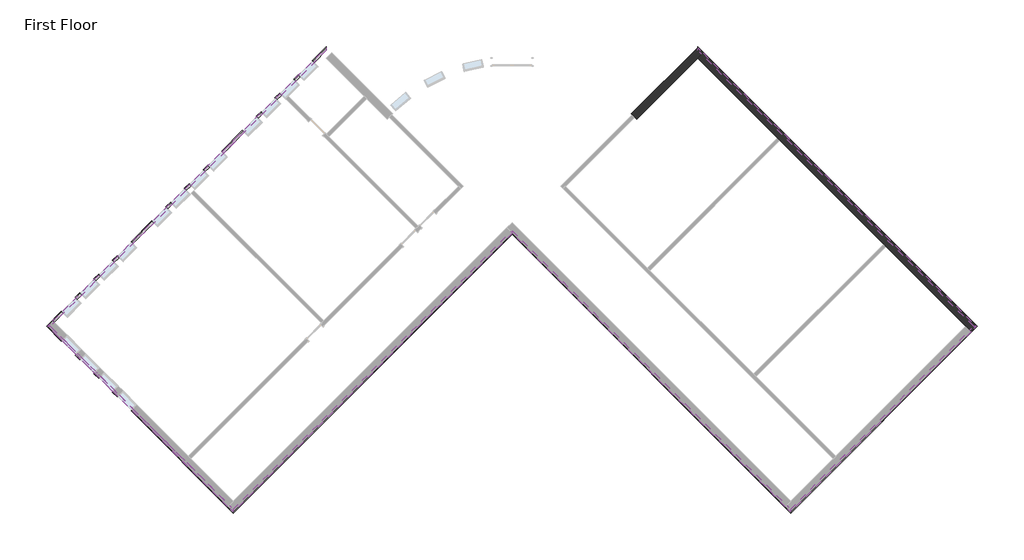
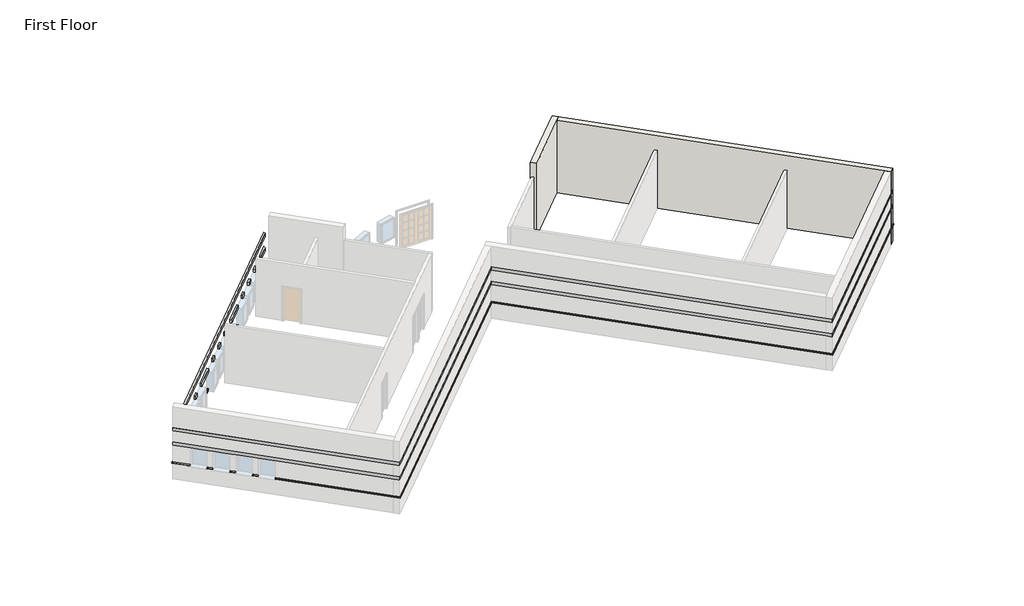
# One storey, part 2 of 2: 18 proxies, 2 walls.
"""IFC4 building model written with IfcOpenShell, lengths in millimetres."""

import ifcopenshell
import ifcopenshell.guid

model = None  # the IFC model being written
_history = None  # IfcOwnerHistory: only IFC2X3 demands one
_inside = {}  # id of a spatial element -> (the spatial element, [elements in it])
_under = {}  # id of a project, library or spatial element -> (it, [spatial elements below it])
_declared = {}  # id of a project -> (the project, [libraries it declares])
_typed = {}  # id of a type object -> (the type object, [elements of that type])
_made_of = {}  # id of a material, layer set ... -> (it, [elements and type objects made of it])


def new_model(schema):
    """Start an empty IFC model of exactly this schema.

    Asked for "IFC4X3", IfcOpenShell would pick the latest addendum, in which some entities
    have other attributes; the version numbers below select the first issue.
    IFC2X3 requires an IfcOwnerHistory on every rooted entity: one is made here for all.
    """
    global model, _history
    if schema == "IFC4X3":
        model = ifcopenshell.file(schema_version=(4, 3, 0, 0))
    else:
        model = ifcopenshell.file(schema=schema)
    _inside.clear()
    _under.clear()
    _declared.clear()
    _typed.clear()
    _made_of.clear()
    _history = None
    if model.schema == "IFC2X3":
        org = make("IfcOrganization", Name="unknown")
        user = make(
            "IfcPersonAndOrganization",
            ThePerson=make("IfcPerson", FamilyName="unknown"),
            TheOrganization=org,
        )
        app = make(
            "IfcApplication",
            ApplicationDeveloper=org,
            Version="unknown",
            ApplicationFullName="unknown",
            ApplicationIdentifier="unknown",
        )
        _history = make(
            "IfcOwnerHistory",
            OwningUser=user,
            OwningApplication=app,
            ChangeAction="ADDED",
            CreationDate=0,
        )
    return model


def make(cls, **values):
    """One entity of the class cls with the attributes given. An attribute that is None is left unset."""
    return model.create_entity(
        cls, **{name: value for name, value in values.items() if value is not None}
    )


def rooted(cls, **values):
    """An entity with a GlobalId (a new one), such as an element, a storey or a relation."""
    return make(cls, GlobalId=ifcopenshell.guid.new(), OwnerHistory=_history, **values)


def si_unit(unit_type, name, prefix=None):
    """IfcSIUnit, for example si_unit("LENGTHUNIT", "METRE", prefix="MILLI")."""
    return make("IfcSIUnit", UnitType=unit_type, Prefix=prefix, Name=name)


def assignment(units):
    """IfcUnitAssignment: the units of a project."""
    return None if units is None else make("IfcUnitAssignment", Units=units)


def point(xyz):
    """IfcCartesianPoint."""
    return None if xyz is None else make("IfcCartesianPoint", Coordinates=xyz)


def direction(xyz):
    """IfcDirection."""
    return None if xyz is None else make("IfcDirection", DirectionRatios=xyz)


def frame(location, z_axis=None, x_axis=None):
    """IfcAxis2Placement3D, a coordinate frame: its origin and axes. An axis left out is left unset."""
    return make(
        "IfcAxis2Placement3D",
        Location=point(location),
        Axis=direction(z_axis),
        RefDirection=direction(x_axis),
    )


def origin():
    """The frame at (0, 0, 0) with its axes left unset."""
    return frame((0.0, 0.0, 0.0))


def place(relative_to, where):
    """IfcLocalPlacement: puts the frame where relative to a parent placement (None: the world)."""
    return make(
        "IfcLocalPlacement", PlacementRelTo=relative_to, RelativePlacement=where
    )


def context(
    kind, dimensions, precision=None, world=None, true_north=None, identifier=None
):
    """IfcGeometricRepresentationContext, for example the 3D "Model" context."""
    return make(
        "IfcGeometricRepresentationContext",
        ContextIdentifier=identifier,
        ContextType=kind,
        CoordinateSpaceDimension=dimensions,
        Precision=precision,
        WorldCoordinateSystem=world,
        TrueNorth=true_north,
    )


def project(units=None, contexts=None):
    """IfcProject with its units and contexts."""
    return rooted(
        "IfcProject",
        Name="project",
        RepresentationContexts=contexts,
        UnitsInContext=assignment(units),
    )


def spatial(cls, under=None, at=None, **own):
    """A site, building, storey or space (cls), placed at a placement, below another one or the project."""
    s = rooted(cls, ObjectPlacement=at, **own)
    if under is not None:
        _under.setdefault(under.id(), (under, []))[1].append(s)
    return s


def polyline(points):
    """IfcPolyline through the points."""
    return make("IfcPolyline", Points=[point(p) for p in points])


def circle_curve(where, radius):
    """IfcCircle in the frame where."""
    return make("IfcCircle", Position=where, Radius=radius)


def faces_of(points, faces, orient=None, outer=None):
    """IfcFace entities. A face is a list of loops; a loop is a list of indices into points, from 0.

    orient and outer hold one flag for each loop. By default every Orientation is true, the
    first loop of a face is its IfcFaceOuterBound and the others are IfcFaceBound.
    """
    made = []
    for i, loops in enumerate(faces):
        bounds = []
        for j, loop in enumerate(loops):
            is_outer = j == 0 if outer is None else outer[i][j]
            bounds.append(
                make(
                    "IfcFaceOuterBound" if is_outer else "IfcFaceBound",
                    Bound=make("IfcPolyLoop", Polygon=[points[k] for k in loop]),
                    Orientation=True if orient is None else orient[i][j],
                )
            )
        made.append(make("IfcFace", Bounds=bounds))
    return made


def faceted_brep(points, faces, orient=None, outer=None, voids=None):
    """IfcFacetedBrep: a solid bounded by flat faces; with voids (closed shells), ...WithVoids."""
    shared = [point(p) for p in points]
    hull = make("IfcClosedShell", CfsFaces=faces_of(shared, faces, orient, outer))
    if voids is None:
        return make("IfcFacetedBrep", Outer=hull)
    return make(
        "IfcFacetedBrepWithVoids",
        Outer=hull,
        Voids=[
            make(cls, CfsFaces=faces_of(shared, fs, o, b)) for cls, fs, o, b in voids
        ],
    )


def shape(context_of_items, identifier, shape_type, items):
    """IfcShapeRepresentation: the items that make up one representation, for example the "Body"."""
    return make(
        "IfcShapeRepresentation",
        ContextOfItems=context_of_items,
        RepresentationIdentifier=identifier,
        RepresentationType=shape_type,
        Items=items,
    )


def made_of(thing, what):
    """Note that an element or type object is made of a material, layer set ...; save() writes the relation."""
    if what is not None:
        _made_of.setdefault(what.id(), (what, []))[1].append(thing)
    return thing


def element(
    cls,
    number,
    at=None,
    inside=None,
    cuts=None,
    type_object=None,
    material=None,
    context=None,
    identifier="Body",
    shape_type=None,
    held_by="IfcProductDefinitionShape",
    body=None,
    shapes=None,
    **own,
):
    """One element of the class cls, such as IfcWall. Its Tag is "e" and its number.

    at: its placement. inside: the storey or other place that contains it. cuts: it is an
    opening in that element (IfcRelVoidsElement). A single representation is given by context,
    identifier, shape_type and body (its items); several are given by shapes. held_by: the class
    of the entity that holds the representations. save() writes the other relations.
    """
    e = rooted(cls, Tag="e%d" % number, ObjectPlacement=at, **own)
    if body is not None:
        shapes = [shape(context, identifier, shape_type, body)]
    if shapes is not None:
        e.Representation = make(held_by, Representations=shapes)
    if inside is not None:
        _inside.setdefault(inside.id(), (inside, []))[1].append(e)
    if cuts is not None:
        rooted(
            "IfcRelVoidsElement", RelatingBuildingElement=cuts, RelatedOpeningElement=e
        )
    if type_object is not None:
        _typed.setdefault(type_object.id(), (type_object, []))[1].append(e)
    return made_of(e, material)


def aggregate(whole, parts):
    """IfcRelAggregates: a whole, such as a stair, and the parts it consists of."""
    return rooted("IfcRelAggregates", RelatingObject=whole, RelatedObjects=parts)


def save(model, path):
    """Write the relations noted so far, then the file.

    IfcRelAggregates (storeys below a building ...), IfcRelContainedInSpatialStructure (elements
    in a storey), IfcRelDefinesByType, IfcRelAssociatesMaterial and IfcRelDeclares: one each for
    every whole, place, type object, material and project.
    """
    for whole, parts in _under.values():
        aggregate(whole, parts)
    for where, things in _inside.values():
        rooted(
            "IfcRelContainedInSpatialStructure",
            RelatedElements=things,
            RelatingStructure=where,
        )
    for kind, things in _typed.values():
        rooted("IfcRelDefinesByType", RelatedObjects=things, RelatingType=kind)
    for what, things in _made_of.values():
        rooted("IfcRelAssociatesMaterial", RelatedObjects=things, RelatingMaterial=what)
    for by, libraries in _declared.values():
        rooted("IfcRelDeclares", RelatingContext=by, RelatedDefinitions=libraries)
    model.write(path)


def plane_surface(at):
    """IfcPlane: the flat surface through the origin of the frame at, square to its z axis."""
    return make("IfcPlane", Position=at)


def cylinder_surface(at, radius):
    """IfcCylindricalSurface: all points at the distance radius from the z axis of the frame at."""
    return make("IfcCylindricalSurface", Position=at, Radius=radius)


def revolved_surface(curve, axis_point, axis_direction):
    """IfcSurfaceOfRevolution: the curve turned about the line through axis_point along axis_direction."""
    return make(
        "IfcSurfaceOfRevolution",
        SweptCurve=make("IfcArbitraryOpenProfileDef", ProfileType="CURVE", Curve=curve),
        AxisPosition=make("IfcAxis1Placement", Location=point(axis_point), Axis=direction(axis_direction)),
    )


def advanced_brep(points, edges, surfaces, faces):
    """IfcAdvancedBrep: a solid bounded by faces that lie on surfaces and meet in shared edges.

    An edge is (start, end): straight between two places in points (the first is 0);
    or (start, end, curve); or (start, end, curve, False) where it runs against its curve.
    A face is (place in surfaces, loops), or (place, loops, False) where it looks against
    its surface's normal. A loop lists edges by number (the first is 1), with a minus sign
    where the edge is run from its end to its start. The first loop is the outer one.
    """
    corners = [point(p) for p in points]
    vertices = [make("IfcVertexPoint", VertexGeometry=c) for c in corners]
    made = []
    for start, end, *more in edges:
        made.append(
            make(
                "IfcEdgeCurve",
                EdgeStart=vertices[start],
                EdgeEnd=vertices[end],
                EdgeGeometry=more[0] if more else make("IfcPolyline", Points=[corners[start], corners[end]]),
                SameSense=more[1] if len(more) > 1 else True,
            )
        )
    hull = []
    for where, loops, *sense in faces:
        bounds = []
        for j, loop in enumerate(loops):
            ring = [make("IfcOrientedEdge", EdgeElement=made[abs(k) - 1], Orientation=k > 0) for k in loop]
            bounds.append(
                make(
                    "IfcFaceOuterBound" if j == 0 else "IfcFaceBound",
                    Bound=make("IfcEdgeLoop", EdgeList=ring),
                    Orientation=True,
                )
            )
        hull.append(make("IfcAdvancedFace", Bounds=bounds, FaceSurface=surfaces[where], SameSense=sense[0] if sense else True))
    return make("IfcAdvancedBrep", Outer=make("IfcClosedShell", CfsFaces=hull))


model = new_model("IFC4")

# Units and contexts
model_context = context("Model", 3, world=origin())
ifc_project = project(units=[si_unit("LENGTHUNIT", "METRE", prefix="MILLI")], contexts=[model_context])

# Site, building, storey
site = spatial("IfcSite", under=ifc_project)
building = spatial("IfcBuilding", under=site)
storey = spatial("IfcBuildingStorey", under=building, Name="First Floor", Elevation=0.0)

# Proxies
placement = place(None, origin())
element("IfcBuildingElementProxy", 1, Name="Wall Sweeps", at=placement, inside=storey, context=model_context, shape_type="Brep", body=[
    faceted_brep([(5753.0175119, 11443.3655905, 1085.85), (5753.0175119, 11573.5793042, 1085.85), (5753.0175119, 11622.9707129, 1041.4), (5753.0175119, 11622.9707129, 1016.0), (5753.0175119, 11443.3655905, 1016.0), (18554.3726125, -1357.9895101, 1085.85), (18554.3726125, -1357.9895101, 1016.0), (18733.9777349, -1357.9895101, 1016.0), (18733.9777349, -1357.9895101, 1041.4), (18684.5863263, -1357.9895101, 1085.85), (5937.1127624, 11259.27034, 1085.85), (5937.1127624, 11259.27034, 1016.0)], [[[0, 1, 2, 3, 4]], [[5, 6, 7, 8, 9]], [[1, 0, 10, 5, 9]], [[2, 1, 9, 8]], [[3, 2, 8, 7]], [[4, 3, 7, 6, 11]], [[0, 4, 11, 6, 5, 10]]]),
])
element("IfcBuildingElementProxy", 2, Name="Wall Sweeps", at=placement, inside=storey, context=model_context, shape_type="Brep", body=[
    faceted_brep([(5753.0175119, 11573.5793042, 2336.8), (5753.0175119, 11573.5793042, 2133.6), (5753.0175119, 11443.3655905, 2133.6), (5753.0175119, 11443.3655905, 2336.8), (18684.5863263, -1357.9895101, 2336.8), (18554.3726125, -1357.9895101, 2336.8), (18554.3726125, -1357.9895101, 2133.6), (18684.5863263, -1357.9895101, 2133.6), (6002.2196193, 11324.3771969, 2336.8), (6002.2196193, 11324.3771969, 2133.6), (5937.1127624, 11259.27034, 2133.6), (5937.1127624, 11259.27034, 2336.8)], [[[0, 1, 2, 3]], [[4, 5, 6, 7]], [[1, 0, 8, 4, 7, 9]], [[2, 1, 9, 7, 6, 10]], [[3, 2, 10, 6, 5, 11]], [[0, 3, 11, 5, 4, 8]]]),
])
element("IfcBuildingElementProxy", 3, Name="Wall Sweeps", at=placement, inside=storey, context=model_context, shape_type="Brep", body=[
    faceted_brep([(5753.0175119, 11573.5793042, 3251.2), (5753.0175119, 11573.5793042, 3048.0), (5753.0175119, 11443.3655905, 3048.0), (5753.0175119, 11443.3655905, 3251.2), (18684.5863263, -1357.9895101, 3251.2), (18554.3726125, -1357.9895101, 3251.2), (18554.3726125, -1357.9895101, 3048.0), (18684.5863263, -1357.9895101, 3048.0), (6002.2196193, 11324.3771969, 3251.2), (6002.2196193, 11324.3771969, 3048.0), (5937.1127624, 11259.27034, 3048.0), (5937.1127624, 11259.27034, 3251.2)], [[[0, 1, 2, 3]], [[4, 5, 6, 7]], [[1, 0, 8, 4, 7, 9]], [[2, 1, 9, 7, 6, 10]], [[3, 2, 10, 6, 5, 11]], [[0, 3, 11, 5, 4, 8]]]),
])
element("IfcBuildingElementProxy", 4, Name="Wall Sweeps", at=placement, inside=storey, context=model_context, shape_type="Brep", body=[
    faceted_brep([(18554.3726125, -1357.9895101, 1085.85), (18684.5863263, -1357.9895101, 1085.85), (18733.9777349, -1357.9895101, 1041.4), (18733.9777349, -1357.9895101, 1016.0), (18554.3726125, -1357.9895101, 1016.0), (10063.54045, -9848.8216726, 1085.85), (10063.54045, -9848.8216726, 1016.0), (10063.54045, -10028.426795, 1016.0), (10063.54045, -10028.426795, 1041.4), (10063.54045, -9979.0353863, 1085.85), (18370.277362, -1542.0847606, 1085.85), (18370.277362, -1542.0847606, 1016.0)], [[[0, 1, 2, 3, 4]], [[5, 6, 7, 8, 9]], [[1, 0, 10, 5, 9]], [[2, 1, 9, 8]], [[3, 2, 8, 7]], [[4, 3, 7, 6, 11]], [[0, 4, 11, 6, 5, 10]]]),
])
element("IfcBuildingElementProxy", 5, Name="Wall Sweeps", at=placement, inside=storey, context=model_context, shape_type="Brep", body=[
    faceted_brep([(18684.5863263, -1357.9895101, 2336.8), (18684.5863263, -1357.9895101, 2133.6), (18554.3726125, -1357.9895101, 2133.6), (18554.3726125, -1357.9895101, 2336.8), (10063.54045, -9979.0353863, 2336.8), (10063.54045, -9848.8216726, 2336.8), (10063.54045, -9848.8216726, 2133.6), (10063.54045, -9979.0353863, 2133.6), (18435.3842189, -1607.1916175, 2336.8), (18435.3842189, -1607.1916175, 2133.6), (18370.277362, -1542.0847606, 2133.6), (18370.277362, -1542.0847606, 2336.8)], [[[0, 1, 2, 3]], [[4, 5, 6, 7]], [[1, 0, 8, 4, 7, 9]], [[2, 1, 9, 7, 6, 10]], [[3, 2, 10, 6, 5, 11]], [[0, 3, 11, 5, 4, 8]]]),
])
element("IfcBuildingElementProxy", 6, Name="Wall Sweeps", at=placement, inside=storey, context=model_context, shape_type="Brep", body=[
    faceted_brep([(18684.5863263, -1357.9895101, 3251.2), (18684.5863263, -1357.9895101, 3048.0), (18554.3726125, -1357.9895101, 3048.0), (18554.3726125, -1357.9895101, 3251.2), (10063.54045, -9979.0353863, 3251.2), (10063.54045, -9848.8216726, 3251.2), (10063.54045, -9848.8216726, 3048.0), (10063.54045, -9979.0353863, 3048.0), (18435.3842189, -1607.1916175, 3251.2), (18435.3842189, -1607.1916175, 3048.0), (18370.277362, -1542.0847606, 3048.0), (18370.277362, -1542.0847606, 3251.2)], [[[0, 1, 2, 3]], [[4, 5, 6, 7]], [[1, 0, 8, 4, 7, 9]], [[2, 1, 9, 7, 6, 10]], [[3, 2, 10, 6, 5, 11]], [[0, 3, 11, 5, 4, 8]]]),
])
element("IfcBuildingElementProxy", 7, Name="Wall Sweeps", at=placement, inside=storey, context=model_context, shape_type="Brep", body=[
    faceted_brep([(10063.54045, -9848.8216726, 1085.85), (10063.54045, -9979.0353863, 1085.85), (10063.54045, -10028.426795, 1041.4), (10063.54045, -10028.426795, 1016.0), (10063.54045, -9848.8216726, 1016.0), (-2868.0283643, 3082.7471418, 1085.85), (-2868.0283643, 3082.7471418, 1016.0), (-2868.0283643, 2903.1420194, 1016.0), (-2868.0283643, 2903.1420194, 1041.4), (-2868.0283643, 2952.533428, 1085.85), (9879.4451996, -9664.7264221, 1085.85), (9879.4451996, -9664.7264221, 1016.0)], [[[0, 1, 2, 3, 4]], [[5, 6, 7, 8, 9]], [[1, 0, 10, 5, 9]], [[2, 1, 9, 8]], [[3, 2, 8, 7]], [[4, 3, 7, 6, 11]], [[0, 4, 11, 6, 5, 10]]]),
])
element("IfcBuildingElementProxy", 8, Name="Wall Sweeps", at=placement, inside=storey, context=model_context, shape_type="Brep", body=[
    faceted_brep([(10063.54045, -9979.0353863, 2336.8), (10063.54045, -9979.0353863, 2133.6), (10063.54045, -9848.8216726, 2133.6), (10063.54045, -9848.8216726, 2336.8), (-2868.0283643, 2952.533428, 2336.8), (-2868.0283643, 3082.7471418, 2336.8), (-2868.0283643, 3082.7471418, 2133.6), (-2868.0283643, 2952.533428, 2133.6), (9814.3383427, -9729.833279, 2336.8), (9814.3383427, -9729.833279, 2133.6), (9879.4451996, -9664.7264221, 2133.6), (9879.4451996, -9664.7264221, 2336.8)], [[[0, 1, 2, 3]], [[4, 5, 6, 7]], [[1, 0, 8, 4, 7, 9]], [[2, 1, 9, 7, 6, 10]], [[3, 2, 10, 6, 5, 11]], [[0, 3, 11, 5, 4, 8]]]),
])
element("IfcBuildingElementProxy", 9, Name="Wall Sweeps", at=placement, inside=storey, context=model_context, shape_type="Brep", body=[
    faceted_brep([(10063.54045, -9979.0353863, 3251.2), (10063.54045, -9979.0353863, 3048.0), (10063.54045, -9848.8216726, 3048.0), (10063.54045, -9848.8216726, 3251.2), (-2868.0283643, 2952.533428, 3251.2), (-2868.0283643, 3082.7471418, 3251.2), (-2868.0283643, 3082.7471418, 3048.0), (-2868.0283643, 2952.533428, 3048.0), (9814.3383427, -9729.833279, 3251.2), (9814.3383427, -9729.833279, 3048.0), (9879.4451996, -9664.7264221, 3048.0), (9879.4451996, -9664.7264221, 3251.2)], [[[0, 1, 2, 3]], [[4, 5, 6, 7]], [[1, 0, 8, 4, 7, 9]], [[2, 1, 9, 7, 6, 10]], [[3, 2, 10, 6, 5, 11]], [[0, 3, 11, 5, 4, 8]]]),
])
element("IfcBuildingElementProxy", 10, Name="Wall Sweeps", at=placement, inside=storey, context=model_context, shape_type="Brep", body=[
    faceted_brep([(-2868.0283643, 3082.7471418, 1085.85), (-2868.0283643, 2952.533428, 1085.85), (-2868.0283643, 2903.1420194, 1041.4), (-2868.0283643, 2903.1420194, 1016.0), (-2868.0283643, 3082.7471418, 1016.0), (-15799.5971786, -9848.8216726, 1085.85), (-15799.5971786, -9848.8216726, 1016.0), (-15799.5971786, -10028.426795, 1016.0), (-15799.5971786, -10028.426795, 1041.4), (-15799.5971786, -9979.0353863, 1085.85), (-2933.1352212, 3017.6402849, 1085.85), (-2933.1352212, 3017.6402849, 1016.0)], [[[0, 1, 2, 3, 4]], [[5, 6, 7, 8, 9]], [[1, 0, 10, 5, 9]], [[2, 1, 9, 8]], [[3, 2, 8, 7]], [[4, 3, 7, 6, 11]], [[0, 4, 11, 6, 5, 10]]]),
])
element("IfcBuildingElementProxy", 11, Name="Wall Sweeps", at=placement, inside=storey, context=model_context, shape_type="Brep", body=[
    faceted_brep([(-2868.0283643, 2952.533428, 2336.8), (-2868.0283643, 2952.533428, 2133.6), (-2868.0283643, 3082.7471418, 2133.6), (-2868.0283643, 3082.7471418, 2336.8), (-15799.5971786, -9979.0353863, 2336.8), (-15799.5971786, -9848.8216726, 2336.8), (-15799.5971786, -9848.8216726, 2133.6), (-15799.5971786, -9979.0353863, 2133.6), (-2933.1352212, 3017.6402849, 2133.6), (-2933.1352212, 3017.6402849, 2336.8)], [[[0, 1, 2, 3]], [[4, 5, 6, 7]], [[1, 0, 4, 7]], [[2, 1, 7, 6, 8]], [[3, 2, 8, 6, 5, 9]], [[0, 3, 9, 5, 4]]]),
])
element("IfcBuildingElementProxy", 12, Name="Wall Sweeps", at=placement, inside=storey, context=model_context, shape_type="Brep", body=[
    faceted_brep([(-2868.0283643, 2952.533428, 3251.2), (-2868.0283643, 2952.533428, 3048.0), (-2868.0283643, 3082.7471418, 3048.0), (-2868.0283643, 3082.7471418, 3251.2), (-15799.5971786, -9979.0353863, 3251.2), (-15799.5971786, -9848.8216726, 3251.2), (-15799.5971786, -9848.8216726, 3048.0), (-15799.5971786, -9979.0353863, 3048.0), (-2933.1352212, 3017.6402849, 3048.0), (-2933.1352212, 3017.6402849, 3251.2)], [[[0, 1, 2, 3]], [[4, 5, 6, 7]], [[1, 0, 4, 7]], [[2, 1, 7, 6, 8]], [[3, 2, 8, 6, 5, 9]], [[0, 3, 9, 5, 4]]]),
])
element("IfcBuildingElementProxy", 13, Name="Wall Sweeps", at=placement, inside=storey, context=model_context, shape_type="Brep", body=[
    faceted_brep([(-24290.4293411, -1357.9895101, 1085.85), (-24420.6430549, -1357.9895101, 1085.85), (-24470.0344635, -1357.9895101, 1041.4), (-24470.0344635, -1357.9895101, 1016.0), (-24290.4293411, -1357.9895101, 1016.0), (-23692.119777, -759.679946, 1085.85), (-23692.119777, -759.679946, 1016.0), (-23757.2266339, -694.5730891, 1016.0), (-23781.9223383, -669.8773848, 1016.0), (-23781.9223383, -669.8773848, 1041.4), (-23757.2266339, -694.5730891, 1085.85), (-24106.3340906, -1173.8942596, 1085.85), (-24106.3340906, -1173.8942596, 1016.0)], [[[0, 1, 2, 3, 4]], [[5, 6, 7, 8, 9, 10]], [[1, 0, 11, 5, 10]], [[2, 1, 10, 9]], [[3, 2, 9, 8]], [[4, 3, 8, 7, 6, 12]], [[0, 4, 12, 6, 5, 11]]]),
    faceted_brep([(-23045.5413363, -113.1015053, 1085.85), (-23110.6481932, -47.9946484, 1085.85), (-23135.3438975, -23.2989441, 1041.4), (-23135.3438975, -23.2989441, 1016.0), (-23110.6481932, -47.9946484, 1016.0), (-23045.5413363, -113.1015053, 1016.0), (-22830.0151894, 102.4246416, 1085.85), (-22830.0151894, 102.4246416, 1016.0), (-22895.1220463, 167.5314985, 1016.0), (-22919.8177506, 192.2272028, 1016.0), (-22919.8177506, 192.2272028, 1041.4), (-22895.1220463, 167.5314985, 1085.85)], [[[0, 1, 2, 3, 4, 5]], [[6, 7, 8, 9, 10, 11]], [[1, 0, 6, 11]], [[2, 1, 11, 10]], [[3, 2, 10, 9]], [[5, 4, 3, 9, 8, 7]], [[0, 5, 7, 6]]]),
    faceted_brep([(-22183.4367487, 749.0030823, 1085.85), (-22248.5436056, 814.1099392, 1085.85), (-22273.2393099, 838.8056435, 1041.4), (-22273.2393099, 838.8056435, 1016.0), (-22248.5436056, 814.1099392, 1016.0), (-22183.4367487, 749.0030823, 1016.0), (-21967.9106018, 964.5292292, 1085.85), (-21967.9106018, 964.5292292, 1016.0), (-22033.0174587, 1029.6360861, 1016.0), (-22057.713163, 1054.3317904, 1016.0), (-22057.713163, 1054.3317904, 1041.4), (-22033.0174587, 1029.6360861, 1085.85)], [[[0, 1, 2, 3, 4, 5]], [[6, 7, 8, 9, 10, 11]], [[1, 0, 6, 11]], [[2, 1, 11, 10]], [[3, 2, 10, 9]], [[5, 4, 3, 9, 8, 7]], [[0, 5, 7, 6]]]),
    faceted_brep([(-21321.3321611, 1611.1076699, 1085.85), (-21386.439018, 1676.2145268, 1085.85), (-21411.1347223, 1700.9102311, 1041.4), (-21411.1347223, 1700.9102311, 1016.0), (-21386.439018, 1676.2145268, 1016.0), (-21321.3321611, 1611.1076699, 1016.0), (-21105.8060142, 1826.6338168, 1085.85), (-21105.8060142, 1826.6338168, 1016.0), (-21170.9128711, 1891.7406737, 1016.0), (-21195.6085754, 1916.4363781, 1016.0), (-21195.6085754, 1916.4363781, 1041.4), (-21170.9128711, 1891.7406737, 1085.85)], [[[0, 1, 2, 3, 4, 5]], [[6, 7, 8, 9, 10, 11]], [[1, 0, 6, 11]], [[2, 1, 11, 10]], [[3, 2, 10, 9]], [[5, 4, 3, 9, 8, 7]], [[0, 5, 7, 6]]]),
    faceted_brep([(-20459.2275735, 2473.2122576, 1085.85), (-20524.3344303, 2538.3191144, 1085.85), (-20549.0301347, 2563.0148188, 1041.4), (-20549.0301347, 2563.0148188, 1016.0), (-20524.3344303, 2538.3191144, 1016.0), (-20459.2275735, 2473.2122576, 1016.0), (-19489.2421301, 3443.1977009, 1085.85), (-19489.2421301, 3443.1977009, 1016.0), (-19554.348987, 3508.3045578, 1016.0), (-19579.0446913, 3533.0002621, 1016.0), (-19579.0446913, 3533.0002621, 1041.4), (-19554.348987, 3508.3045578, 1085.85)], [[[0, 1, 2, 3, 4, 5]], [[6, 7, 8, 9, 10, 11]], [[1, 0, 6, 11]], [[2, 1, 11, 10]], [[3, 2, 10, 9]], [[5, 4, 3, 9, 8, 7]], [[0, 5, 7, 6]]]),
    faceted_brep([(-18842.6636894, 4089.7761416, 1085.85), (-18907.7705463, 4154.8829985, 1085.85), (-18932.4662506, 4179.5787028, 1041.4), (-18932.4662506, 4179.5787028, 1016.0), (-18907.7705463, 4154.8829985, 1016.0), (-18842.6636894, 4089.7761416, 1016.0), (-18627.1375425, 4305.3022885, 1085.85), (-18627.1375425, 4305.3022885, 1016.0), (-18692.2443994, 4370.4091454, 1016.0), (-18716.9401037, 4395.1048497, 1016.0), (-18716.9401037, 4395.1048497, 1041.4), (-18692.2443994, 4370.4091454, 1085.85)], [[[0, 1, 2, 3, 4, 5]], [[6, 7, 8, 9, 10, 11]], [[1, 0, 6, 11]], [[2, 1, 11, 10]], [[3, 2, 10, 9]], [[5, 4, 3, 9, 8, 7]], [[0, 5, 7, 6]]]),
    faceted_brep([(-17980.5591018, 4951.8807292, 1085.85), (-18045.6659587, 5016.9875861, 1085.85), (-18070.361663, 5041.6832905, 1041.4), (-18070.361663, 5041.6832905, 1016.0), (-18045.6659587, 5016.9875861, 1016.0), (-17980.5591018, 4951.8807292, 1016.0), (-17765.0329549, 5167.4068762, 1085.85), (-17765.0329549, 5167.4068762, 1016.0), (-17830.1398117, 5232.513733, 1016.0), (-17854.8355161, 5257.2094374, 1016.0), (-17854.8355161, 5257.2094374, 1041.4), (-17830.1398117, 5232.513733, 1085.85)], [[[0, 1, 2, 3, 4, 5]], [[6, 7, 8, 9, 10, 11]], [[1, 0, 6, 11]], [[2, 1, 11, 10]], [[3, 2, 10, 9]], [[5, 4, 3, 9, 8, 7]], [[0, 5, 7, 6]]]),
    faceted_brep([(-17118.4545142, 5813.9853169, 1085.85), (-17183.561371, 5879.0921737, 1085.85), (-17208.2570754, 5903.7878781, 1041.4), (-17208.2570754, 5903.7878781, 1016.0), (-17183.561371, 5879.0921737, 1016.0), (-17118.4545142, 5813.9853169, 1016.0), (-16902.9283672, 6029.5114638, 1085.85), (-16902.9283672, 6029.5114638, 1016.0), (-16968.0352241, 6094.6183207, 1016.0), (-16992.7309285, 6119.314025, 1016.0), (-16992.7309285, 6119.314025, 1041.4), (-16968.0352241, 6094.6183207, 1085.85)], [[[0, 1, 2, 3, 4, 5]], [[6, 7, 8, 9, 10, 11]], [[1, 0, 6, 11]], [[2, 1, 11, 10]], [[3, 2, 10, 9]], [[5, 4, 3, 9, 8, 7]], [[0, 5, 7, 6]]]),
    faceted_brep([(-16256.3499265, 6676.0899045, 1085.85), (-16321.4567834, 6741.1967614, 1085.85), (-16346.1524877, 6765.8924657, 1041.4), (-16346.1524877, 6765.8924657, 1016.0), (-16321.4567834, 6741.1967614, 1016.0), (-16256.3499265, 6676.0899045, 1016.0), (-15286.3644832, 7646.0753478, 1085.85), (-15286.3644832, 7646.0753478, 1016.0), (-15351.4713401, 7711.1822047, 1016.0), (-15376.1670444, 7735.877909, 1016.0), (-15376.1670444, 7735.877909, 1041.4), (-15351.4713401, 7711.1822047, 1085.85)], [[[0, 1, 2, 3, 4, 5]], [[6, 7, 8, 9, 10, 11]], [[1, 0, 6, 11]], [[2, 1, 11, 10]], [[3, 2, 10, 9]], [[5, 4, 3, 9, 8, 7]], [[0, 5, 7, 6]]]),
    faceted_brep([(-14639.7860425, 8292.6537886, 1085.85), (-14704.8928993, 8357.7606454, 1085.85), (-14729.5886037, 8382.4563498, 1041.4), (-14729.5886037, 8382.4563498, 1016.0), (-14704.8928993, 8357.7606454, 1016.0), (-14639.7860425, 8292.6537886, 1016.0), (-14424.2598956, 8508.1799355, 1085.85), (-14424.2598956, 8508.1799355, 1016.0), (-14489.3667524, 8573.2867923, 1016.0), (-14514.0624568, 8597.9824967, 1016.0), (-14514.0624568, 8597.9824967, 1041.4), (-14489.3667524, 8573.2867923, 1085.85)], [[[0, 1, 2, 3, 4, 5]], [[6, 7, 8, 9, 10, 11]], [[1, 0, 6, 11]], [[2, 1, 11, 10]], [[3, 2, 10, 9]], [[5, 4, 3, 9, 8, 7]], [[0, 5, 7, 6]]]),
    faceted_brep([(-13777.6814548, 9154.7583762, 1085.85), (-13842.7883117, 9219.8652331, 1085.85), (-13867.4840161, 9244.5609374, 1041.4), (-13867.4840161, 9244.5609374, 1016.0), (-13842.7883117, 9219.8652331, 1016.0), (-13777.6814548, 9154.7583762, 1016.0), (-13562.1553079, 9370.2845231, 1085.85), (-13562.1553079, 9370.2845231, 1016.0), (-13627.2621648, 9435.39138, 1016.0), (-13651.9578691, 9460.0870843, 1016.0), (-13651.9578691, 9460.0870843, 1041.4), (-13627.2621648, 9435.39138, 1085.85)], [[[0, 1, 2, 3, 4, 5]], [[6, 7, 8, 9, 10, 11]], [[1, 0, 6, 11]], [[2, 1, 11, 10]], [[3, 2, 10, 9]], [[5, 4, 3, 9, 8, 7]], [[0, 5, 7, 6]]]),
    faceted_brep([(-12915.5768672, 10016.8629638, 1085.85), (-12980.6837241, 10081.9698207, 1085.85), (-13005.3794284, 10106.665525, 1041.4), (-13005.3794284, 10106.665525, 1016.0), (-12980.6837241, 10081.9698207, 1016.0), (-12915.5768672, 10016.8629638, 1016.0), (-12700.0507203, 10232.3891107, 1085.85), (-12700.0507203, 10232.3891107, 1016.0), (-12765.1575772, 10297.4959676, 1016.0), (-12789.8532815, 10322.1916719, 1016.0), (-12789.8532815, 10322.1916719, 1041.4), (-12765.1575772, 10297.4959676, 1085.85)], [[[0, 1, 2, 3, 4, 5]], [[6, 7, 8, 9, 10, 11]], [[1, 0, 6, 11]], [[2, 1, 11, 10]], [[3, 2, 10, 9]], [[5, 4, 3, 9, 8, 7]], [[0, 5, 7, 6]]]),
    faceted_brep([(-12053.4722796, 10878.9675514, 1085.85), (-12118.5791365, 10944.0744083, 1085.85), (-12143.2748408, 10968.7701126, 1041.4), (-12143.2748408, 10968.7701126, 1016.0), (-12118.5791365, 10944.0744083, 1016.0), (-12053.4722796, 10878.9675514, 1016.0), (-11489.0742405, 11443.3655905, 1085.85), (-11489.0742405, 11443.3655905, 1016.0), (-11489.0742405, 11622.9707129, 1016.0), (-11489.0742405, 11622.9707129, 1041.4), (-11489.0742405, 11573.5793042, 1085.85)], [[[0, 1, 2, 3, 4, 5]], [[6, 7, 8, 9, 10]], [[1, 0, 6, 10]], [[2, 1, 10, 9]], [[3, 2, 9, 8]], [[5, 4, 3, 8, 7]], [[0, 5, 7, 6]]]),
])
element("IfcBuildingElementProxy", 14, Name="Wall Sweeps", at=placement, inside=storey, context=model_context, shape_type="Brep", body=[
    faceted_brep([(-24420.6430549, -1357.9895101, 2336.8), (-24420.6430549, -1357.9895101, 2133.6), (-24290.4293411, -1357.9895101, 2133.6), (-24290.4293411, -1357.9895101, 2336.8), (-23757.2266339, -694.5730891, 2336.8), (-23692.119777, -759.679946, 2336.8), (-23692.119777, -759.679946, 2133.6), (-23757.2266339, -694.5730891, 2133.6), (-24171.4409475, -1108.7874027, 2336.8), (-24171.4409475, -1108.7874027, 2133.6), (-24106.3340906, -1173.8942596, 2133.6), (-24106.3340906, -1173.8942596, 2336.8)], [[[0, 1, 2, 3]], [[4, 5, 6, 7]], [[1, 0, 8, 4, 7, 9]], [[2, 1, 9, 7, 6, 10]], [[3, 2, 10, 6, 5, 11]], [[0, 3, 11, 5, 4, 8]]]),
    faceted_brep([(-23110.6481932, -47.9946484, 2336.8), (-23110.6481932, -47.9946484, 2133.6), (-23045.5413363, -113.1015053, 2133.6), (-23045.5413363, -113.1015053, 2336.8), (-22895.1220463, 167.5314985, 2336.8), (-22830.0151894, 102.4246416, 2336.8), (-22830.0151894, 102.4246416, 2133.6), (-22895.1220463, 167.5314985, 2133.6)], [[[0, 1, 2, 3]], [[4, 5, 6, 7]], [[1, 0, 4, 7]], [[2, 1, 7, 6]], [[3, 2, 6, 5]], [[0, 3, 5, 4]]]),
    faceted_brep([(-22248.5436056, 814.1099392, 2336.8), (-22248.5436056, 814.1099392, 2133.6), (-22183.4367487, 749.0030823, 2133.6), (-22183.4367487, 749.0030823, 2336.8), (-22033.0174587, 1029.6360861, 2336.8), (-21967.9106018, 964.5292292, 2336.8), (-21967.9106018, 964.5292292, 2133.6), (-22033.0174587, 1029.6360861, 2133.6)], [[[0, 1, 2, 3]], [[4, 5, 6, 7]], [[1, 0, 4, 7]], [[2, 1, 7, 6]], [[3, 2, 6, 5]], [[0, 3, 5, 4]]]),
    faceted_brep([(-21386.439018, 1676.2145268, 2336.8), (-21386.439018, 1676.2145268, 2133.6), (-21321.3321611, 1611.1076699, 2133.6), (-21321.3321611, 1611.1076699, 2336.8), (-21170.9128711, 1891.7406737, 2336.8), (-21105.8060142, 1826.6338168, 2336.8), (-21105.8060142, 1826.6338168, 2133.6), (-21170.9128711, 1891.7406737, 2133.6)], [[[0, 1, 2, 3]], [[4, 5, 6, 7]], [[1, 0, 4, 7]], [[2, 1, 7, 6]], [[3, 2, 6, 5]], [[0, 3, 5, 4]]]),
    faceted_brep([(-20524.3344303, 2538.3191144, 2336.8), (-20524.3344303, 2538.3191144, 2133.6), (-20459.2275735, 2473.2122576, 2133.6), (-20459.2275735, 2473.2122576, 2336.8), (-19554.348987, 3508.3045578, 2336.8), (-19489.2421301, 3443.1977009, 2336.8), (-19489.2421301, 3443.1977009, 2133.6), (-19554.348987, 3508.3045578, 2133.6)], [[[0, 1, 2, 3]], [[4, 5, 6, 7]], [[1, 0, 4, 7]], [[2, 1, 7, 6]], [[3, 2, 6, 5]], [[0, 3, 5, 4]]]),
    faceted_brep([(-18907.7705463, 4154.8829985, 2336.8), (-18907.7705463, 4154.8829985, 2133.6), (-18842.6636894, 4089.7761416, 2133.6), (-18842.6636894, 4089.7761416, 2336.8), (-18692.2443994, 4370.4091454, 2336.8), (-18627.1375425, 4305.3022885, 2336.8), (-18627.1375425, 4305.3022885, 2133.6), (-18692.2443994, 4370.4091454, 2133.6)], [[[0, 1, 2, 3]], [[4, 5, 6, 7]], [[1, 0, 4, 7]], [[2, 1, 7, 6]], [[3, 2, 6, 5]], [[0, 3, 5, 4]]]),
    faceted_brep([(-18045.6659587, 5016.9875861, 2336.8), (-18045.6659587, 5016.9875861, 2133.6), (-17980.5591018, 4951.8807292, 2133.6), (-17980.5591018, 4951.8807292, 2336.8), (-17830.1398117, 5232.513733, 2336.8), (-17765.0329549, 5167.4068762, 2336.8), (-17765.0329549, 5167.4068762, 2133.6), (-17830.1398117, 5232.513733, 2133.6)], [[[0, 1, 2, 3]], [[4, 5, 6, 7]], [[1, 0, 4, 7]], [[2, 1, 7, 6]], [[3, 2, 6, 5]], [[0, 3, 5, 4]]]),
    faceted_brep([(-17183.561371, 5879.0921737, 2336.8), (-17183.561371, 5879.0921737, 2133.6), (-17118.4545142, 5813.9853169, 2133.6), (-17118.4545142, 5813.9853169, 2336.8), (-16968.0352241, 6094.6183207, 2336.8), (-16902.9283672, 6029.5114638, 2336.8), (-16902.9283672, 6029.5114638, 2133.6), (-16968.0352241, 6094.6183207, 2133.6)], [[[0, 1, 2, 3]], [[4, 5, 6, 7]], [[1, 0, 4, 7]], [[2, 1, 7, 6]], [[3, 2, 6, 5]], [[0, 3, 5, 4]]]),
    faceted_brep([(-16321.4567834, 6741.1967614, 2336.8), (-16321.4567834, 6741.1967614, 2133.6), (-16256.3499265, 6676.0899045, 2133.6), (-16256.3499265, 6676.0899045, 2336.8), (-15351.4713401, 7711.1822047, 2336.8), (-15286.3644832, 7646.0753478, 2336.8), (-15286.3644832, 7646.0753478, 2133.6), (-15351.4713401, 7711.1822047, 2133.6)], [[[0, 1, 2, 3]], [[4, 5, 6, 7]], [[1, 0, 4, 7]], [[2, 1, 7, 6]], [[3, 2, 6, 5]], [[0, 3, 5, 4]]]),
    faceted_brep([(-14704.8928993, 8357.7606454, 2336.8), (-14704.8928993, 8357.7606454, 2133.6), (-14639.7860425, 8292.6537886, 2133.6), (-14639.7860425, 8292.6537886, 2336.8), (-14489.3667524, 8573.2867923, 2336.8), (-14424.2598956, 8508.1799355, 2336.8), (-14424.2598956, 8508.1799355, 2133.6), (-14489.3667524, 8573.2867923, 2133.6)], [[[0, 1, 2, 3]], [[4, 5, 6, 7]], [[1, 0, 4, 7]], [[2, 1, 7, 6]], [[3, 2, 6, 5]], [[0, 3, 5, 4]]]),
    faceted_brep([(-13842.7883117, 9219.8652331, 2336.8), (-13842.7883117, 9219.8652331, 2133.6), (-13777.6814548, 9154.7583762, 2133.6), (-13777.6814548, 9154.7583762, 2336.8), (-13627.2621648, 9435.39138, 2336.8), (-13562.1553079, 9370.2845231, 2336.8), (-13562.1553079, 9370.2845231, 2133.6), (-13627.2621648, 9435.39138, 2133.6)], [[[0, 1, 2, 3]], [[4, 5, 6, 7]], [[1, 0, 4, 7]], [[2, 1, 7, 6]], [[3, 2, 6, 5]], [[0, 3, 5, 4]]]),
    faceted_brep([(-12980.6837241, 10081.9698207, 2336.8), (-12980.6837241, 10081.9698207, 2133.6), (-12915.5768672, 10016.8629638, 2133.6), (-12915.5768672, 10016.8629638, 2336.8), (-12765.1575772, 10297.4959676, 2336.8), (-12700.0507203, 10232.3891107, 2336.8), (-12700.0507203, 10232.3891107, 2133.6), (-12765.1575772, 10297.4959676, 2133.6)], [[[0, 1, 2, 3]], [[4, 5, 6, 7]], [[1, 0, 4, 7]], [[2, 1, 7, 6]], [[3, 2, 6, 5]], [[0, 3, 5, 4]]]),
    faceted_brep([(-12118.5791365, 10944.0744083, 2336.8), (-12118.5791365, 10944.0744083, 2133.6), (-12053.4722796, 10878.9675514, 2133.6), (-12053.4722796, 10878.9675514, 2336.8), (-11489.0742405, 11573.5793042, 2336.8), (-11489.0742405, 11443.3655905, 2336.8), (-11489.0742405, 11443.3655905, 2133.6), (-11489.0742405, 11573.5793042, 2133.6)], [[[0, 1, 2, 3]], [[4, 5, 6, 7]], [[1, 0, 4, 7]], [[2, 1, 7, 6]], [[3, 2, 6, 5]], [[0, 3, 5, 4]]]),
])
element("IfcBuildingElementProxy", 15, Name="Wall Sweeps", at=placement, inside=storey, context=model_context, shape_type="Brep", body=[
    faceted_brep([(-24420.6430549, -1357.9895101, 3251.2), (-24420.6430549, -1357.9895101, 3048.0), (-24290.4293411, -1357.9895101, 3048.0), (-24290.4293411, -1357.9895101, 3251.2), (-11489.0742405, 11573.5793042, 3251.2), (-11489.0742405, 11443.3655905, 3251.2), (-11489.0742405, 11443.3655905, 3048.0), (-11489.0742405, 11573.5793042, 3048.0), (-24171.4409475, -1108.7874027, 3251.2), (-24171.4409475, -1108.7874027, 3048.0), (-24106.3340906, -1173.8942596, 3048.0), (-24106.3340906, -1173.8942596, 3251.2)], [[[0, 1, 2, 3]], [[4, 5, 6, 7]], [[1, 0, 8, 4, 7, 9]], [[2, 1, 9, 7, 6, 10]], [[3, 2, 10, 6, 5, 11]], [[0, 3, 11, 5, 4, 8]]]),
])
element("IfcBuildingElementProxy", 16, Name="Wall Sweeps", at=placement, inside=storey, context=model_context, shape_type="Brep", body=[
    faceted_brep([(-23692.119777, -1956.2990742, 1085.85), (-23757.2266339, -2021.405931, 1085.85), (-23781.9223383, -2046.1016354, 1041.4), (-23781.9223383, -2046.1016354, 1016.0), (-23757.2266339, -2021.405931, 1016.0), (-23692.119777, -1956.2990742, 1016.0), (-24290.4293411, -1357.9895101, 1085.85), (-24290.4293411, -1357.9895101, 1016.0), (-24470.0344635, -1357.9895101, 1016.0), (-24470.0344635, -1357.9895101, 1041.4), (-24420.6430549, -1357.9895101, 1085.85)], [[[0, 1, 2, 3, 4, 5]], [[6, 7, 8, 9, 10]], [[1, 0, 6, 10]], [[2, 1, 10, 9]], [[3, 2, 9, 8]], [[5, 4, 3, 8, 7]], [[0, 5, 7, 6]]]),
    faceted_brep([(-15799.5971786, -9848.8216726, 1085.85), (-15799.5971786, -9979.0353863, 1085.85), (-15799.5971786, -10028.426795, 1041.4), (-15799.5971786, -10028.426795, 1016.0), (-15799.5971786, -9848.8216726, 1016.0), (-20459.2275735, -5189.1912777, 1085.85), (-20459.2275735, -5189.1912777, 1016.0), (-20524.3344303, -5254.2981346, 1016.0), (-20549.0301347, -5278.993839, 1016.0), (-20549.0301347, -5278.993839, 1041.4), (-20524.3344303, -5254.2981346, 1085.85), (-15983.6924291, -9664.7264221, 1085.85), (-15983.6924291, -9664.7264221, 1016.0)], [[[0, 1, 2, 3, 4]], [[5, 6, 7, 8, 9, 10]], [[1, 0, 11, 5, 10]], [[2, 1, 10, 9]], [[3, 2, 9, 8]], [[4, 3, 8, 7, 6, 12]], [[0, 4, 12, 6, 5, 11]]]),
    faceted_brep([(-21105.8060142, -4542.612837, 1085.85), (-21170.9128711, -4607.7196939, 1085.85), (-21195.6085754, -4632.4153982, 1041.4), (-21195.6085754, -4632.4153982, 1016.0), (-21170.9128711, -4607.7196939, 1016.0), (-21105.8060142, -4542.612837, 1016.0), (-21321.3321611, -4327.0866901, 1085.85), (-21321.3321611, -4327.0866901, 1016.0), (-21386.439018, -4392.193547, 1016.0), (-21411.1347223, -4416.8892513, 1016.0), (-21411.1347223, -4416.8892513, 1041.4), (-21386.439018, -4392.193547, 1085.85)], [[[0, 1, 2, 3, 4, 5]], [[6, 7, 8, 9, 10, 11]], [[1, 0, 6, 11]], [[2, 1, 11, 10]], [[3, 2, 10, 9]], [[5, 4, 3, 9, 8, 7]], [[0, 5, 7, 6]]]),
    faceted_brep([(-21967.9106018, -3680.5082494, 1085.85), (-22033.0174587, -3745.6151063, 1085.85), (-22057.713163, -3770.3108106, 1041.4), (-22057.713163, -3770.3108106, 1016.0), (-22033.0174587, -3745.6151063, 1016.0), (-21967.9106018, -3680.5082494, 1016.0), (-22183.4367487, -3464.9821025, 1085.85), (-22183.4367487, -3464.9821025, 1016.0), (-22248.5436056, -3530.0889594, 1016.0), (-22273.2393099, -3554.7846637, 1016.0), (-22273.2393099, -3554.7846637, 1041.4), (-22248.5436056, -3530.0889594, 1085.85)], [[[0, 1, 2, 3, 4, 5]], [[6, 7, 8, 9, 10, 11]], [[1, 0, 6, 11]], [[2, 1, 11, 10]], [[3, 2, 10, 9]], [[5, 4, 3, 9, 8, 7]], [[0, 5, 7, 6]]]),
    faceted_brep([(-22830.0151894, -2818.4036618, 1085.85), (-22895.1220463, -2883.5105187, 1085.85), (-22919.8177506, -2908.206223, 1041.4), (-22919.8177506, -2908.206223, 1016.0), (-22895.1220463, -2883.5105187, 1016.0), (-22830.0151894, -2818.4036618, 1016.0), (-23045.5413363, -2602.8775149, 1085.85), (-23045.5413363, -2602.8775149, 1016.0), (-23110.6481932, -2667.9843718, 1016.0), (-23135.3438975, -2692.6800761, 1016.0), (-23135.3438975, -2692.6800761, 1041.4), (-23110.6481932, -2667.9843718, 1085.85)], [[[0, 1, 2, 3, 4, 5]], [[6, 7, 8, 9, 10, 11]], [[1, 0, 6, 11]], [[2, 1, 11, 10]], [[3, 2, 10, 9]], [[5, 4, 3, 9, 8, 7]], [[0, 5, 7, 6]]]),
])
element("IfcBuildingElementProxy", 17, Name="Wall Sweeps", at=placement, inside=storey, context=model_context, shape_type="Brep", body=[
    faceted_brep([(-15799.5971786, -9979.0353863, 2336.8), (-15799.5971786, -9979.0353863, 2133.6), (-15799.5971786, -9848.8216726, 2133.6), (-15799.5971786, -9848.8216726, 2336.8), (-24420.6430549, -1357.9895101, 2336.8), (-24290.4293411, -1357.9895101, 2336.8), (-24290.4293411, -1357.9895101, 2133.6), (-24420.6430549, -1357.9895101, 2133.6), (-16048.799286, -9729.833279, 2336.8), (-23757.2266339, -2021.405931, 2133.6), (-23110.6481932, -2667.9843718, 2133.6), (-22895.1220463, -2883.5105187, 2133.6), (-22248.5436056, -3530.0889594, 2133.6), (-22033.0174587, -3745.6151063, 2133.6), (-21386.439018, -4392.193547, 2133.6), (-21170.9128711, -4607.7196939, 2133.6), (-20524.3344303, -5254.2981346, 2133.6), (-16048.799286, -9729.833279, 2133.6), (-23692.119777, -1956.2990742, 2133.6), (-23045.5413363, -2602.8775149, 2133.6), (-22830.0151894, -2818.4036618, 2133.6), (-22183.4367487, -3464.9821025, 2133.6), (-21967.9106018, -3680.5082494, 2133.6), (-21321.3321611, -4327.0866901, 2133.6), (-21105.8060142, -4542.612837, 2133.6), (-20459.2275735, -5189.1912777, 2133.6), (-15983.6924291, -9664.7264221, 2133.6), (-15983.6924291, -9664.7264221, 2336.8)], [[[0, 1, 2, 3]], [[4, 5, 6, 7]], [[1, 0, 8, 4, 7, 9, 10, 11, 12, 13, 14, 15, 16, 17]], [[2, 1, 17, 16, 15, 14, 13, 12, 11, 10, 9, 7, 6, 18, 19, 20, 21, 22, 23, 24, 25, 26]], [[3, 2, 26, 25, 24, 23, 22, 21, 20, 19, 18, 6, 5, 27]], [[0, 3, 27, 5, 4, 8]]]),
])
element("IfcBuildingElementProxy", 18, Name="Wall Sweeps", at=placement, inside=storey, context=model_context, shape_type="Brep", body=[
    faceted_brep([(-15799.5971786, -9979.0353863, 3251.2), (-15799.5971786, -9979.0353863, 3048.0), (-15799.5971786, -9848.8216726, 3048.0), (-15799.5971786, -9848.8216726, 3251.2), (-24420.6430549, -1357.9895101, 3251.2), (-24290.4293411, -1357.9895101, 3251.2), (-24290.4293411, -1357.9895101, 3048.0), (-24420.6430549, -1357.9895101, 3048.0), (-16048.799286, -9729.833279, 3251.2), (-16048.799286, -9729.833279, 3048.0), (-15983.6924291, -9664.7264221, 3048.0), (-15983.6924291, -9664.7264221, 3251.2)], [[[0, 1, 2, 3]], [[4, 5, 6, 7]], [[1, 0, 8, 4, 7, 9]], [[2, 1, 9, 7, 6, 10]], [[3, 2, 10, 6, 5, 11]], [[0, 3, 11, 5, 4, 8]]]),
])

# Walls
element("IfcWall", 19, ObjectType="Exterior - Split Face and CMU on Mtl. Stud", at=placement, inside=storey, context=model_context, shape_type="AdvancedBrep", body=[
    advanced_brep(
    [(2921.9555443, 8244.1131219, 0.0), (5753.0175119, 11075.1750895, 0.0), (6002.2196193, 11324.3771969, 0.0), (6002.2196193, 11324.3771969, 1016.0), (5937.1127624, 11259.27034, 1016.0), (5937.1127624, 11259.27034, 1085.85), (6002.2196193, 11324.3771969, 1085.85), (6002.2196193, 11324.3771969, 2133.6), (5937.1127624, 11259.27034, 2133.6), (5937.1127624, 11259.27034, 2336.8), (6002.2196193, 11324.3771969, 2336.8), (6002.2196193, 11324.3771969, 3048.0), (5937.1127624, 11259.27034, 3048.0), (5937.1127624, 11259.27034, 3251.2), (6002.2196193, 11324.3771969, 3251.2), (6002.2196193, 11324.3771969, 4572.0), (5753.0175119, 11075.1750895, 4572.0), (2921.9555443, 8244.1131219, 4572.0), (2677.2250436, 8497.7868359, 4572.0), (2926.4294954, 8746.9912878, 4572.0), (5753.0175119, 11573.5793042, 4572.0), (5753.0175119, 11573.5793042, 3251.2), (2926.4294954, 8746.9912878, 3251.2), (2861.3220456, 8681.8838379, 3251.2), (2861.3220456, 8681.8838379, 3048.0), (2926.4294954, 8746.9912878, 3048.0), (5753.0175119, 11573.5793042, 3048.0), (5753.0175119, 11573.5793042, 2336.8), (2926.4294954, 8746.9912878, 2336.8), (2861.3220456, 8681.8838379, 2336.8), (2861.3220456, 8681.8838379, 2133.6), (2926.4294954, 8746.9912878, 2133.6), (5753.0175119, 11573.5793042, 2133.6), (5753.0175119, 11573.5793042, 1085.85), (2926.4294954, 8746.9912878, 1085.85), (2861.3220456, 8681.8838379, 1085.85), (2861.3220456, 8681.8838379, 1016.0), (2926.4294954, 8746.9912878, 1016.0), (5753.0175119, 11573.5793042, 1016.0), (5753.0175119, 11573.5793042, 0.0), (2926.4294954, 8746.9912878, 0.0), (2677.2250436, 8497.7868359, 0.0), (5818.1243688, 11508.4724474, 0.0), (2712.9544089, 8462.1452813, 0.0), (2742.2400511, 8432.5881297, 0.0), (2821.6568654, 8350.8358404, 0.0), (5753.0175119, 11443.3655905, 1085.85), (2926.3399919, 8616.6880705, 1085.85), (2926.3399919, 8616.6880705, 1016.0), (5753.0175119, 11443.3655905, 1016.0), (2926.3399919, 8616.6880705, 2133.6), (5753.0175119, 11443.3655905, 2133.6), (2926.3399919, 8616.6880705, 2336.8), (5753.0175119, 11443.3655905, 2336.8), (2926.3399919, 8616.6880705, 3048.0), (5753.0175119, 11443.3655905, 3048.0), (2926.3399919, 8616.6880705, 3251.2), (5753.0175119, 11443.3655905, 3251.2)],
    [
        (0, 1),
        (1, 2),
        (2, 3),
        (3, 4),
        (4, 5),
        (5, 6),
        (6, 7),
        (7, 8),
        (8, 9),
        (9, 10),
        (10, 11),
        (11, 12),
        (12, 13),
        (13, 14),
        (14, 15),
        (15, 16),
        (16, 17),
        (17, 0),
        (18, 19),
        (19, 20),
        (20, 21),
        (21, 22),
        (22, 23),
        (23, 24),
        (24, 25),
        (25, 26),
        (26, 27),
        (27, 28),
        (28, 29),
        (29, 30),
        (30, 31),
        (31, 32),
        (32, 33),
        (33, 34),
        (34, 35),
        (35, 36),
        (36, 37),
        (37, 38),
        (38, 39),
        (39, 40),
        (40, 41),
        (41, 18),
        (15, 20),
        (18, 17, circle_curve(frame((-2868.0283643, 2903.1420194, 4572.0), z_axis=(0.0, 0.0, -1.0), x_axis=(1.0, 0.0, 0.0)), 7877.175)),
        (14, 21),
        (2, 42),
        (42, 39),
        (38, 3),
        (6, 33),
        (32, 7),
        (10, 27),
        (26, 11),
        (41, 43, circle_curve(frame((-2868.0283643, 2903.1420194, 0.0), z_axis=(0.0, 0.0, -1.0), x_axis=(1.0, 0.0, 0.0)), 7877.175)),
        (43, 44, circle_curve(frame((-2868.0283643, 2903.1420194, 0.0), z_axis=(0.0, 0.0, -1.0), x_axis=(1.0, 0.0, 0.0)), 7877.175)),
        (44, 45, circle_curve(frame((-2868.0283643, 2903.1420194, 0.0), z_axis=(0.0, 0.0, -1.0), x_axis=(1.0, 0.0, 0.0)), 7877.175)),
        (45, 0, circle_curve(frame((-2868.0283643, 2903.1420194, 0.0), z_axis=(0.0, 0.0, -1.0), x_axis=(1.0, 0.0, 0.0)), 7877.175)),
        (44, 42),
        (46, 47),
        (47, 35, circle_curve(frame((-2868.0283643, 2903.1420194, 1085.85), z_axis=(0.0, 0.0, 1.0), x_axis=(0.6844196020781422, 0.7290883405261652, 0.0)), 8137.525)),
        (5, 46),
        (48, 49),
        (49, 4),
        (36, 48, circle_curve(frame((-2868.0283643, 2903.1420194, 1016.0), z_axis=(0.0, 0.0, -1.0), x_axis=(0.6844196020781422, 0.7290883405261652, 0.0)), 8137.525)),
        (47, 48),
        (46, 49),
        (50, 51),
        (51, 8),
        (30, 50, circle_curve(frame((-2868.0283643, 2903.1420194, 2133.6), z_axis=(0.0, 0.0, -1.0), x_axis=(0.6844196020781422, 0.7290883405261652, 0.0)), 8137.525)),
        (52, 50),
        (29, 52, circle_curve(frame((-2868.0283643, 2903.1420194, 2336.8), z_axis=(0.0, 0.0, -1.0), x_axis=(0.6844196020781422, 0.7290883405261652, 0.0)), 8137.525)),
        (53, 52),
        (9, 53),
        (53, 51),
        (54, 55),
        (55, 12),
        (24, 54, circle_curve(frame((-2868.0283643, 2903.1420194, 3048.0), z_axis=(0.0, 0.0, -1.0), x_axis=(-0.7040995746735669, 0.7101012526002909, 0.0)), 8137.525)),
        (56, 54),
        (23, 56, circle_curve(frame((-2868.0283643, 2903.1420194, 3251.2), z_axis=(0.0, 0.0, -1.0), x_axis=(-0.7040995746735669, 0.7101012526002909, 0.0)), 8137.525)),
        (57, 56),
        (13, 57),
        (57, 55),
    ],
    [
        plane_surface(frame((2984.8535626, 8307.0111402, 0.0), z_axis=(0.707106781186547, -0.7071067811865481, 0.0), x_axis=(0.7071067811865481, 0.707106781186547, 0.0))),
        plane_surface(frame((2735.6514552, 8556.2132476, 0.0), z_axis=(-0.707106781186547, 0.7071067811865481, 0.0), x_axis=(-0.7071067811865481, -0.707106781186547, 0.0))),
        plane_surface(frame((5877.6185656, 11199.7761432, 4572.0), z_axis=(0.0, 0.0, 1.0), x_axis=(-0.707106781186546, 0.7071067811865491, 0.0))),
        plane_surface(frame((5753.0175119, 11573.5793042, 0.0), z_axis=(0.7071067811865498, 0.7071067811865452, 0.0), x_axis=(-0.7071067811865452, 0.7071067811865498, 0.0))),
        revolved_surface(polyline([(5009.146635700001, 2903.1420194, 0.0), (5009.146635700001, 2903.1420194, 4572.0)]), (-2868.0283643, 2903.1420194, 0.0), (0.0, 0.0, -1.0)),
        plane_surface(frame((3050.2065213, 8372.3640989, 0.0), z_axis=(0.0, 0.0, -1.0000000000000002), x_axis=(-0.7071067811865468, 0.7071067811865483, 0.0))),
        plane_surface(frame((0.0, 0.0, 0.0), z_axis=(0.0, 0.0, -1.0), x_axis=(1.0, 0.0, 0.0))),
        plane_surface(frame((-2868.0283643, 2903.1420194, 1085.85), z_axis=(0.0, 0.0, -1.0), x_axis=(0.6844196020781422, 0.7290883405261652, 0.0))),
        plane_surface(frame((-2868.0283643, 2903.1420194, 1016.0), z_axis=(0.0, 0.0, 1.0), x_axis=(0.6844196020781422, 0.7290883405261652, 0.0))),
        cylinder_surface(frame((-2868.0283643, 2903.1420194, 1016.0), z_axis=(0.0, 0.0, -1.0), x_axis=(0.6844196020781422, 0.7290883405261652, 0.0)), 8137.525),
        plane_surface(frame((2926.3399919, 8616.6880705, 1016.0), z_axis=(-0.7071067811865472, 0.7071067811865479, 0.0), x_axis=(0.7071067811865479, 0.7071067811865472, 0.0))),
        plane_surface(frame((5753.0175119, 11443.3655905, 1016.0), z_axis=(0.7071067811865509, 0.7071067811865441, 0.0), x_axis=(0.7071067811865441, -0.7071067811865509, 0.0))),
        plane_surface(frame((-2868.0283643, 2903.1420194, 2133.6), z_axis=(0.0, 0.0, 1.0), x_axis=(0.6844196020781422, 0.7290883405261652, 0.0))),
        cylinder_surface(frame((-2868.0283643, 2903.1420194, 2133.6), z_axis=(0.0, 0.0, -1.0), x_axis=(0.6844196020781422, 0.7290883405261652, 0.0)), 8137.525),
        plane_surface(frame((-2868.0283643, 2903.1420194, 2336.8), z_axis=(0.0, 0.0, -1.0), x_axis=(0.6844196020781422, 0.7290883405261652, 0.0))),
        plane_surface(frame((2926.3399919, 8616.6880705, 2133.6), z_axis=(-0.7071067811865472, 0.7071067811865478, 0.0), x_axis=(0.7071067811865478, 0.7071067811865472, 0.0))),
        plane_surface(frame((5753.0175119, 11443.3655905, 2133.6), z_axis=(0.7071067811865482, 0.7071067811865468, 0.0), x_axis=(0.7071067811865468, -0.7071067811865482, 0.0))),
        plane_surface(frame((-2868.0283643, 2903.1420194, 3048.0), z_axis=(0.0, 0.0, 1.0), x_axis=(-0.7040995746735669, 0.7101012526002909, 0.0))),
        cylinder_surface(frame((-2868.0283643, 2903.1420194, 3048.0), z_axis=(0.0, 0.0, -1.0), x_axis=(-0.7040995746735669, 0.7101012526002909, 0.0)), 8137.525),
        plane_surface(frame((-2868.0283643, 2903.1420194, 3251.2), z_axis=(0.0, 0.0, -1.0), x_axis=(-0.7040995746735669, 0.7101012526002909, 0.0))),
        plane_surface(frame((2926.3399919, 8616.6880705, 3048.0), z_axis=(-0.7071067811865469, 0.7071067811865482, 0.0), x_axis=(0.7071067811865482, 0.7071067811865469, 0.0))),
        plane_surface(frame((5753.0175119, 11443.3655905, 3048.0), z_axis=(0.7071067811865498, 0.7071067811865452, 0.0), x_axis=(0.7071067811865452, -0.7071067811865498, 0.0))),
    ],
    [
        (0, [[1, 2, 3, 4, 5, 6, 7, 8, 9, 10, 11, 12, 13, 14, 15, 16, 17, 18]]),
        (1, [[19, 20, 21, 22, 23, 24, 25, 26, 27, 28, 29, 30, 31, 32, 33, 34, 35, 36, 37, 38, 39, 40, 41, 42]]),
        (2, [[-17, -16, 43, -20, -19, 44]]),
        (3, [[-43, -15, 45, -21]]),
        (3, [[46, 47, -39, 48, -3]]),
        (3, [[49, -33, 50, -7]]),
        (3, [[51, -27, 52, -11]]),
        (4, [[-44, -42, 53, 54, 55, 56, -18]]),
        (5, [[-2, -1, -56, -55, 57, -46]]),
        (6, [[-54, -53, -41, -40, -47, -57]]),
        (7, [[58, 59, -35, -34, -49, -6, 60]]),
        (8, [[61, 62, -4, -48, -38, -37, 63]]),
        (9, [[64, -63, -36, -59]]),
        (10, [[-58, 65, -61, -64]]),
        (11, [[-65, -60, -5, -62]]),
        (12, [[66, 67, -8, -50, -32, -31, 68]]),
        (13, [[69, -68, -30, 70]]),
        (14, [[71, -70, -29, -28, -51, -10, 72]]),
        (15, [[-66, -69, -71, 73]]),
        (16, [[-73, -72, -9, -67]]),
        (17, [[74, 75, -12, -52, -26, -25, 76]]),
        (18, [[77, -76, -24, 78]]),
        (19, [[79, -78, -23, -22, -45, -14, 80]]),
        (20, [[-74, -77, -79, 81]]),
        (21, [[-81, -80, -13, -75]]),
    ],
),
])
element("IfcWall", 20, ObjectType="Exterior - Split Face and CMU on Mtl. Stud", at=placement, inside=storey, context=model_context, shape_type="Brep", body=[
    faceted_brep([(5753.0175119, 11075.1750895, 4572.0), (18186.1821115, -1357.9895101, 4572.0), (18435.3842189, -1607.1916175, 4572.0), (18684.5863263, -1357.9895101, 4572.0), (6002.2196193, 11324.3771969, 4572.0), (5753.0175119, 11075.1750895, 0.0), (9452.8830338, 7375.3095676, 0.0), (9562.8911713, 7265.3014302, 0.0), (14376.3084522, 2451.8841493, 0.0), (14486.3165897, 2341.8760118, 0.0), (18186.1821115, -1357.9895101, 0.0), (18435.3842189, -1607.1916175, 0.0), (18435.3842189, -1607.1916175, 1016.0), (18370.277362, -1542.0847606, 1016.0), (18370.277362, -1542.0847606, 1085.85), (18435.3842189, -1607.1916175, 1085.85), (18435.3842189, -1607.1916175, 2133.6), (18370.277362, -1542.0847606, 2133.6), (18370.277362, -1542.0847606, 2336.8), (18435.3842189, -1607.1916175, 2336.8), (18435.3842189, -1607.1916175, 3048.0), (18370.277362, -1542.0847606, 3048.0), (18370.277362, -1542.0847606, 3251.2), (18435.3842189, -1607.1916175, 3251.2), (18684.5863263, -1357.9895101, 3251.2), (6002.2196193, 11324.3771969, 3251.2), (18684.5863263, -1357.9895101, 0.0), (6002.2196193, 11324.3771969, 0.0), (6002.2196193, 11324.3771969, 1016.0), (18684.5863263, -1357.9895101, 1016.0), (18684.5863263, -1357.9895101, 1085.85), (6002.2196193, 11324.3771969, 1085.85), (6002.2196193, 11324.3771969, 2133.6), (18684.5863263, -1357.9895101, 2133.6), (18684.5863263, -1357.9895101, 2336.8), (6002.2196193, 11324.3771969, 2336.8), (6002.2196193, 11324.3771969, 3048.0), (18684.5863263, -1357.9895101, 3048.0), (5937.1127624, 11259.27034, 0.0), (18619.4794694, -1423.096367, 0.0), (5937.1127624, 11259.27034, 3251.2), (5937.1127624, 11259.27034, 3048.0), (5937.1127624, 11259.27034, 2336.8), (5937.1127624, 11259.27034, 2133.6), (5937.1127624, 11259.27034, 1085.85), (5937.1127624, 11259.27034, 1016.0), (18554.3726125, -1357.9895101, 1085.85), (18554.3726125, -1357.9895101, 1016.0), (18554.3726125, -1357.9895101, 2133.6), (18554.3726125, -1357.9895101, 2336.8), (18554.3726125, -1357.9895101, 3048.0), (18554.3726125, -1357.9895101, 3251.2)], [[[0, 1, 2, 3, 4]], [[5, 6, 7, 8, 9, 10, 11, 12, 13, 14, 15, 16, 17, 18, 19, 20, 21, 22, 23, 2, 1, 0]], [[4, 3, 24, 25]], [[26, 27, 28, 29]], [[30, 31, 32, 33]], [[34, 35, 36, 37]], [[11, 10, 9, 8, 7, 6, 5, 38, 39]], [[5, 0, 4, 25, 40, 41, 36, 35, 42, 43, 32, 31, 44, 45, 28, 27, 38]], [[27, 26, 39, 38]], [[3, 2, 23, 24]], [[11, 39, 26, 29, 12]], [[15, 30, 33, 16]], [[19, 34, 37, 20]], [[14, 46, 44, 31, 30, 15]], [[45, 47, 13, 12, 29, 28]], [[46, 47, 45, 44]], [[47, 46, 14, 13]], [[43, 48, 17, 16, 33, 32]], [[18, 49, 42, 35, 34, 19]], [[49, 48, 43, 42]], [[48, 49, 18, 17]], [[41, 50, 21, 20, 37, 36]], [[22, 51, 40, 25, 24, 23]], [[51, 50, 41, 40]], [[50, 51, 22, 21]]]),
])

save(model, "model.ifc")
